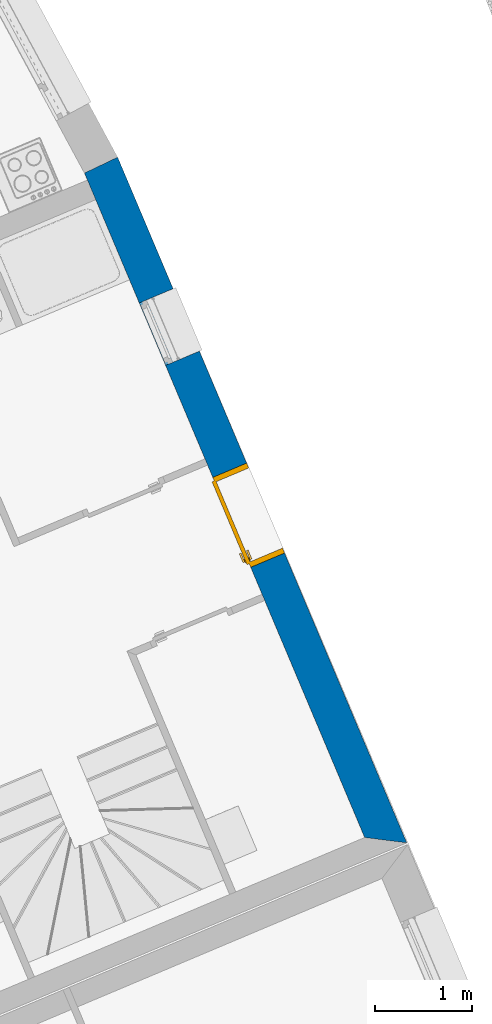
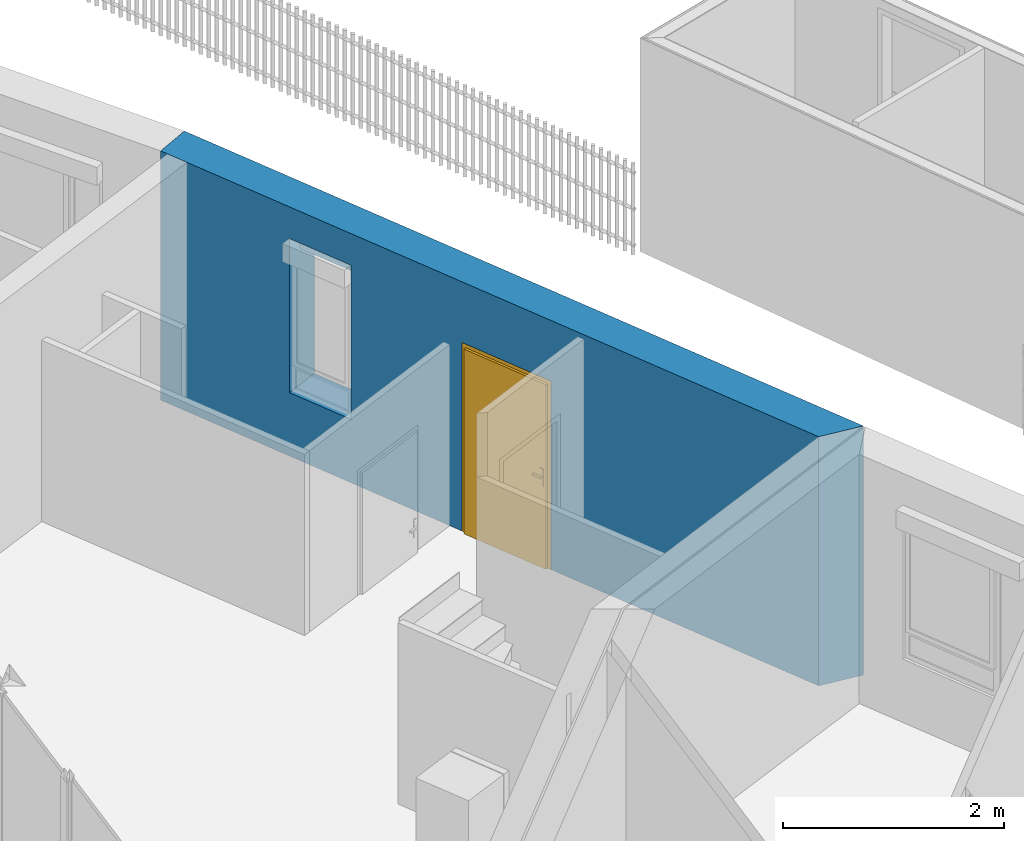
# One storey, part 63 of 195: 1 door, 1 wall, 2 openings.
"""IFC2X3 building model written with IfcOpenShell, lengths in metres."""

from ifc_helpers import new_model, entity, si_unit, converted_unit, derived_unit, money_unit, direction, frame, origin_with_axes, origin_2d_with_axis, place, context, subcontext, project, spatial, polyline, rectangle, outline, extrude, faceted_brep, source, transform, mapped, material, layer, layer_set, layer_usage, type_object, element, fill, save


model = new_model("IFC2X3")

# Units and contexts
model_context = context("Model", 3, precision=1e-05, world=origin_with_axes(), true_north=direction((0.0, 1.0)))
body_context = subcontext(model_context, "Body", "Model", "MODEL_VIEW")
ifc_project = project(units=[si_unit("LENGTHUNIT", "METRE"), si_unit("AREAUNIT", "SQUARE_METRE"), si_unit("VOLUMEUNIT", "CUBIC_METRE"), converted_unit("PLANEANGLEUNIT", "DEGREE", entity("IfcPlaneAngleMeasure", 0.0174532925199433), si_unit("PLANEANGLEUNIT", "RADIAN"), dimensions=[0, 0, 0, 0, 0, 0, 0]), money_unit("CHF"), converted_unit("TIMEUNIT", "Year", entity("IfcTimeMeasure", 31557600.0), si_unit("TIMEUNIT", "SECOND"), dimensions=[0, 0, 1, 0, 0, 0, 0]), si_unit("MASSUNIT", "GRAM", prefix="KILO"), si_unit("THERMODYNAMICTEMPERATUREUNIT", "DEGREE_CELSIUS"), si_unit("LUMINOUSINTENSITYUNIT", "LUMEN"), si_unit("ENERGYUNIT", "JOULE", prefix="MEGA"), derived_unit("THERMALCONDUCTANCEUNIT", [(si_unit("POWERUNIT", "WATT"), 1), (si_unit("LENGTHUNIT", "METRE"), -1), (si_unit("THERMODYNAMICTEMPERATUREUNIT", "KELVIN"), -1)]), derived_unit("SPECIFICHEATCAPACITYUNIT", [(si_unit("ENERGYUNIT", "JOULE"), 1), (si_unit("MASSUNIT", "GRAM", prefix="KILO"), -1), (si_unit("THERMODYNAMICTEMPERATUREUNIT", "KELVIN"), -1)]), derived_unit("MASSDENSITYUNIT", [(si_unit("MASSUNIT", "GRAM", prefix="KILO"), 1), (si_unit("VOLUMEUNIT", "CUBIC_METRE"), -1)])], contexts=[model_context])

# Site, building, storey
site_placement = place(None, origin_with_axes())
site = spatial("IfcSite", under=ifc_project, at=site_placement, Name="Site", CompositionType="ELEMENT")
building_placement = place(site_placement, origin_with_axes())
building = spatial("IfcBuilding", under=site, at=building_placement, Name="Bâtiment", CompositionType="ELEMENT")
storey_placement = place(building_placement, origin_with_axes())
storey = spatial("IfcBuildingStorey", under=building, at=storey_placement, Name="rdc", CompositionType="ELEMENT", Elevation=0.0)

# Wall, openings, door
ifc_material_1 = material(Name="Parpaing 312445824")
ifc_layer_1 = layer(ifc_material_1, 0.22, ventilated="UNKNOWN")
ifc_material_2 = material(Name="Isolant styromousse 301821074")
ifc_layer_2 = layer(ifc_material_2, 0.16, ventilated="UNKNOWN")
ifc_layer_set = layer_set([ifc_layer_1, ifc_layer_2], Name="isol int 22+16 0836643197")
ifc_layer_usage = layer_usage(ifc_layer_set, "AXIS2", "NEGATIVE", 0.0)
wall_type = type_object("IfcWallType", Name="isol int 22+16 0836643197 380", PredefinedType="NOTDEFINED")
wall_placement = place(storey_placement, frame((9567.35521856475, -1035.243268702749, 57.7), z_axis=(0.0, 0.0, 1.0), x_axis=(0.388566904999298, -0.9214205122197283, 0.0)))
wall = element("IfcWallStandardCase", 1, at=wall_placement, inside=storey, type_object=wall_type, material=ifc_layer_usage, Name="Mur-113", context=body_context, shape_type="SweptSolid", body=[
    extrude(outline(polyline([(0.01830169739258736, -0.3799999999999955), (7.480677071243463, -0.3799999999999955), (7.700677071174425, 0.0), (0.0, 0.0), (0.01830169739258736, -0.3799999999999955)])), origin_with_axes(), (0.0, 0.0, 1.0), 2.75),
])
opening_1_placement = place(wall_placement, frame((3.941002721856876, 0.0, 0.0), z_axis=(0.0, 0.0, 1.0), x_axis=(1.0, 0.0, 0.0)))
opening_1 = element("IfcOpeningElement", 2, at=opening_1_placement, cuts=wall, Name="Por-290", context=body_context, shape_type="SweptSolid", body=[
    extrude(rectangle(XDim=1.01000001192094, YDim=2.079999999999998, at=origin_2d_with_axis()), frame((-5.960487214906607e-09, 0.3799999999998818, 1.039999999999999), z_axis=(0.0, -1.0, 0.0), x_axis=(-1.0, 0.0, 0.0)), (0.0, 0.0, 1.0), 0.76),
])
opening_2_placement = place(wall_placement, frame((1.828123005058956, 0.0, 0.7000000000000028), z_axis=(0.0, 0.0, 1.0), x_axis=(1.0, 0.0, 0.0)))
element("IfcOpeningElement", 3, at=opening_2_placement, cuts=wall, Name="Fen-047", context=body_context, shape_type="Brep", body=[
    faceted_brep([(-0.3500000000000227, -0.2200000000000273, 1.5), (0.3500000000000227, -0.2199999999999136, 1.5), (0.3500000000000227, 2.758100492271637, 1.5), (-0.3500000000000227, 2.758100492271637, 1.5), (-0.3500000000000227, -0.2200000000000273, 1.700000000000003), (0.3500000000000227, -0.2199999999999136, 1.700000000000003), (0.3500000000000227, -0.3000000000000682, 1.5), (0.3500000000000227, -0.3000000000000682, 0.0), (0.3500000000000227, 2.758100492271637, 0.0), (-0.3500000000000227, 2.758100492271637, 0.0), (-0.3499999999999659, -0.3000000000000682, 1.5), (-0.3500000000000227, -0.3000000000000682, 0.0), (-0.3499999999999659, -0.4800000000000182, 1.5), (-0.3499999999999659, -0.4800000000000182, 1.700000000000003), (0.3500000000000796, -0.4800000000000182, 1.700000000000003), (0.3500000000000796, -0.4800000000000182, 1.5), (0.3500000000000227, -3.138100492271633, 1.5), (0.3500000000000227, -3.138100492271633, 0.0), (-0.3500000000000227, -3.138100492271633, 0.0), (-0.3500000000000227, -3.138100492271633, 1.5)], [[[0, 1, 2, 3]], [[1, 0, 4, 5]], [[1, 6, 7, 8, 2]], [[2, 8, 9, 3]], [[10, 0, 3, 9, 11]], [[0, 10, 12, 13, 4]], [[14, 5, 4, 13]], [[6, 1, 5, 14, 15]], [[6, 15, 16, 17, 7]], [[7, 11, 9, 8]], [[12, 10, 11, 18, 19]], [[12, 15, 14, 13]], [[15, 12, 19, 16]], [[19, 18, 17, 16]], [[11, 7, 17, 18]]]),
])
door_style = type_object("IfcDoorStyle", Name="Porte_1v", ConstructionType="NOTDEFINED", OperationType="NOTDEFINED", ParameterTakesPrecedence=False, Sizeable=False)
shared_shape = source(origin_with_axes(), body_context, "Body", "Brep", [
    faceted_brep([(0.5049999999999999, 0.0, 0.0), (0.465, 0.0, 0.0), (0.4649999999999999, 0.0, 2.04), (-0.4649999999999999, 0.0, 2.04), (-0.465, 0.0, 0.0), (-0.5049999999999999, 0.0, 0.0), (-0.5049999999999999, 0.0, 2.08), (0.5049999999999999, 0.0, 2.08), (0.5049999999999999, -0.38, 0.0), (0.45, -0.3799999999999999, 0.0), (0.45, -0.01500000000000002, 0.0), (0.465, -0.01500000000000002, 0.0), (0.4649999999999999, -0.01500000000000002, 2.04), (-0.4649999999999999, -0.01499999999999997, 2.04), (-0.465, -0.01499999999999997, 0.0), (-0.45, -0.01499999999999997, 0.0), (-0.45, -0.3799999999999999, 0.0), (-0.5049999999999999, -0.3799999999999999, 0.0), (-0.5049999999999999, -0.3799999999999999, 2.08), (0.5049999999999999, -0.38, 2.08), (-0.45, -0.3799999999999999, 2.025), (0.45, -0.3799999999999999, 2.025), (0.45, -0.01500000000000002, 2.025), (-0.45, -0.01499999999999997, 2.025)], [[[0, 1, 2, 3, 4, 5, 6, 7]], [[0, 8, 9, 10, 11, 1]], [[1, 11, 12, 2]], [[2, 12, 13, 3]], [[3, 13, 14, 4]], [[5, 4, 14, 15, 16, 17]], [[18, 6, 5, 17]], [[19, 7, 6, 18]], [[8, 0, 7, 19]], [[9, 8, 19, 18, 17, 16, 20, 21]], [[10, 9, 21, 22]], [[11, 10, 22, 23, 15, 14, 13, 12]], [[23, 20, 16, 15]], [[22, 21, 20, 23]]]),
    faceted_brep([(-0.4, -0.01499999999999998, 0.9), (-0.4399999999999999, -0.01499999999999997, 0.9), (-0.4399999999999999, -0.01499999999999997, 1.1), (-0.4, -0.01499999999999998, 1.1), (-0.4, -0.02499999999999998, 0.9), (-0.4399999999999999, -0.02499999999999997, 0.9), (-0.4399999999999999, -0.02499999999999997, 1.1), (-0.4, -0.02499999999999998, 1.1)], [[[0, 1, 2, 3]], [[1, 0, 4, 5]], [[2, 1, 5, 6]], [[3, 2, 6, 7]], [[0, 3, 7, 4]], [[5, 4, 7, 6]]]),
    faceted_brep([(-0.3299999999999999, -0.02499999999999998, 1.0), (-0.4299999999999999, -0.02499999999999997, 1.0), (-0.4299999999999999, -0.02499999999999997, 1.02), (-0.3299999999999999, -0.02499999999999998, 1.02), (-0.3299999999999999, -0.04499999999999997, 1.0), (-0.4299999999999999, -0.04499999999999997, 1.0), (-0.4299999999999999, -0.04499999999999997, 1.02), (-0.3299999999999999, -0.04499999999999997, 1.02)], [[[0, 1, 2, 3]], [[1, 0, 4, 5]], [[2, 1, 5, 6]], [[3, 2, 6, 7]], [[0, 3, 7, 4]], [[5, 4, 7, 6]]]),
    faceted_brep([(-0.4, 0.03500000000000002, 0.9), (-0.4399999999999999, 0.03500000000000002, 0.9), (-0.4399999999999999, 0.03500000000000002, 1.1), (-0.4, 0.03500000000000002, 1.1), (-0.4, 0.02500000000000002, 0.9), (-0.4399999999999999, 0.02500000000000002, 0.9), (-0.4399999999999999, 0.02500000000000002, 1.1), (-0.4, 0.02500000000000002, 1.1)], [[[0, 1, 2, 3]], [[1, 0, 4, 5]], [[2, 1, 5, 6]], [[3, 2, 6, 7]], [[0, 3, 7, 4]], [[5, 4, 7, 6]]]),
    faceted_brep([(-0.3299999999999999, 0.05500000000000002, 1.0), (-0.4299999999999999, 0.05500000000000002, 1.0), (-0.4299999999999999, 0.05500000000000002, 1.02), (-0.3299999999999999, 0.05500000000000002, 1.02), (-0.3299999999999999, 0.03500000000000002, 1.0), (-0.4299999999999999, 0.03500000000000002, 1.0), (-0.4299999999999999, 0.03500000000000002, 1.02), (-0.3299999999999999, 0.03500000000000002, 1.02)], [[[0, 1, 2, 3]], [[1, 0, 4, 5]], [[2, 1, 5, 6]], [[3, 2, 6, 7]], [[0, 3, 7, 4]], [[5, 4, 7, 6]]]),
    faceted_brep([(-0.465, 0.02500000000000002, 0.0), (0.465, 0.02499999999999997, 0.0), (0.465, -0.01500000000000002, 0.0), (-0.465, -0.01499999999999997, 0.0), (-0.465, 0.02500000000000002, 2.04), (0.465, 0.02499999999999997, 2.04), (0.465, -0.01500000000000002, 2.04), (-0.465, -0.01499999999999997, 2.04)], [[[0, 1, 2, 3]], [[0, 4, 5, 1]], [[1, 5, 6, 2]], [[3, 2, 6, 7]], [[4, 0, 3, 7]], [[5, 4, 7, 6]]]),
])
door_placement = place(opening_1_placement, frame((0.4649999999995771, 0.0, 0.0), z_axis=(0.0, 0.0, 1.0), x_axis=(-1.0, 0.0, 0.0)))
door = element("IfcDoor", 4, at=door_placement, inside=storey, type_object=door_style, Name="Por-290", OverallHeight=2.04, OverallWidth=0.93, context=body_context, shape_type="MappedRepresentation", body=[
    mapped(shared_shape, transform((0.464999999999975, 0.3799999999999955, 0.0))),
])
fill(opening_1, door)

save(model, "model.ifc")
